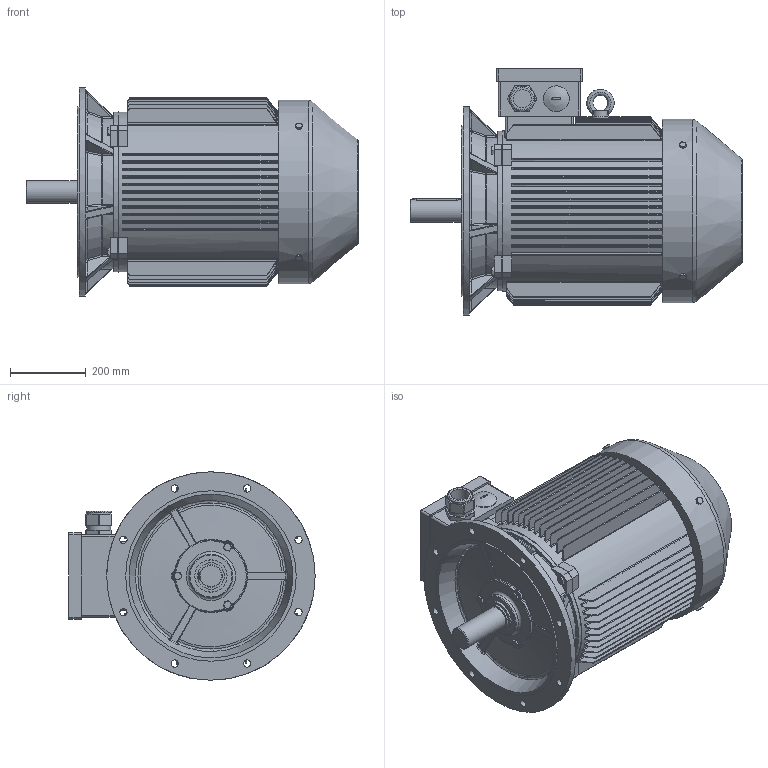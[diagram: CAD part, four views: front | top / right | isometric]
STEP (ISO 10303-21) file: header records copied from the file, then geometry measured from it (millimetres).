
FILE_DESCRIPTION(/* description */ ('01-IP55-Cast Iron-IE4-250M B5-2'),/* implementation_level */ '2;1');
FILE_NAME(/* name */ 'D:\02 - Onedrive\OneDrive\01 - Werkbestanden\121 - OMEC\1408 - MOTOREN CAD BIBLIOTHEEK\1408 - Gereed\OMT1-IE4\01-IP55-Cast Iron-IE4-250M B5-2.stp',/* time_stamp */ '2017-10-19T10:47:33+02:00',/* author */ ('freek'),/* organization */ (''),/* preprocessor_version */ 'ST-DEVELOPER v16.1',/* originating_system */ 'Autodesk Inventor 2016',/* authorisation */ '');
FILE_SCHEMA (('AUTOMOTIVE_DESIGN { 1 0 10303 214 3 1 1 }'));
Products named in the file (1): 1408-751
Bounding box: 876.1 x 650 x 550 mm (x, y, z)
Volume: 111352080.8 mm3; surface area: 3576902.8 mm2
Topology: 5 solids, 18 shells, 2462 faces, 6004 edges, 3877 vertices
Faces by surface type: plane 1754, cylinder 347, cone 191, bspline 130, torus 40
Full cylindrical faces by diameter (mm): 8 x1, 11.053 x4, 11.459 x3, 12 x17, 15.4 x4, 17.2 x7, 19 x8, 48 x1, 60 x1, 63 x1, 66 x1, 68 x1, 70 x1, 85 x1, 85.2 x1, 115 x1, 250 x1, 422 x1, 450 x1, 484 x1, 550 x1
Entity records: 81098 total; most frequent: CARTESIAN_POINT 22604, ORIENTED_EDGE 11812, DIRECTION 10711, EDGE_CURVE 5898, LINE 4099, VECTOR 4099, VERTEX_POINT 3850, AXIS2_PLACEMENT_3D 3306
